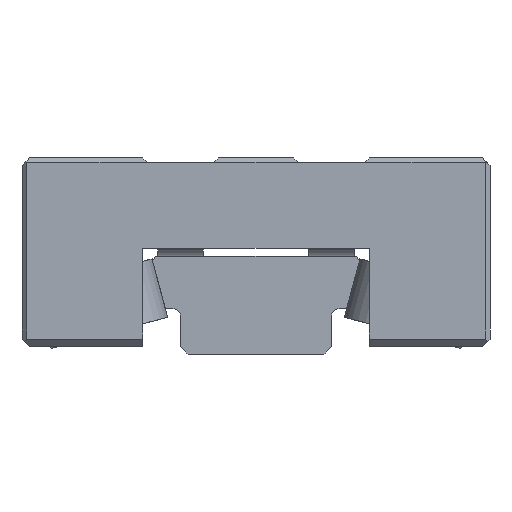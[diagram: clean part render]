
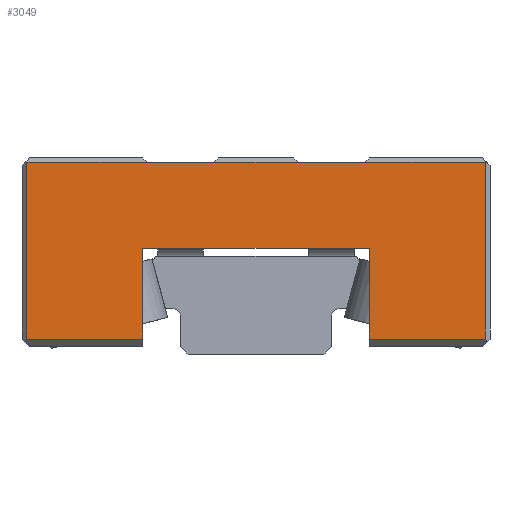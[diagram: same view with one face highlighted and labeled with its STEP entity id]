
A CAD part, left-side view. The second image highlights one B-rep face of the part: STEP entity #3049.
In plain terms, the highlighted planar face has unit normal (-1, 0, 0).
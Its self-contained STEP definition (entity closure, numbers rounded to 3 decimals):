
#2878=CARTESIAN_POINT('',(41.217,-7.5,-5.5));
#2879=VERTEX_POINT('',#2878);
#2886=CARTESIAN_POINT('',(41.217,-7.5,0.5));
#2887=VERTEX_POINT('',#2886);
#2888=CARTESIAN_POINT('',(41.217,-7.5,-5.5));
#2889=DIRECTION('',(0.0,0.0,1.0));
#2890=VECTOR('',#2889,6.);
#2891=LINE('',#2888,#2890);
#2892=EDGE_CURVE('',#2879,#2887,#2891,.T.);
#2943=CARTESIAN_POINT('',(41.217,-15.2,-5.5));
#2944=VERTEX_POINT('',#2943);
#2951=CARTESIAN_POINT('',(41.217,-15.2,-5.5));
#2952=DIRECTION('',(0.0,1.0,0.0));
#2953=VECTOR('',#2952,7.7);
#2954=LINE('',#2951,#2953);
#2955=EDGE_CURVE('',#2944,#2879,#2954,.T.);
#2962=CARTESIAN_POINT('',(41.217,-11.5,6.35));
#2963=DIRECTION('',(1.0,0.0,0.0));
#2964=DIRECTION('',(0.0,0.0,-1.0));
#2965=AXIS2_PLACEMENT_3D('',#2962,#2963,#2964);
#2966=PLANE('',#2965);
#2967=ORIENTED_EDGE('',*,*,#2955,.F.);
#2968=CARTESIAN_POINT('',(41.217,-15.2,6.2));
#2969=VERTEX_POINT('',#2968);
#2970=CARTESIAN_POINT('',(41.217,-15.2,6.2));
#2971=DIRECTION('',(0.0,0.0,-1.0));
#2972=VECTOR('',#2971,11.7);
#2973=LINE('',#2970,#2972);
#2974=EDGE_CURVE('',#2969,#2944,#2973,.T.);
#2975=ORIENTED_EDGE('',*,*,#2974,.F.);
#2976=CARTESIAN_POINT('',(41.217,-7.2,6.2));
#2977=VERTEX_POINT('',#2976);
#2978=CARTESIAN_POINT('',(41.217,-7.2,6.2));
#2979=DIRECTION('',(0.0,-1.0,0.0));
#2980=VECTOR('',#2979,8.);
#2981=LINE('',#2978,#2980);
#2982=EDGE_CURVE('',#2977,#2969,#2981,.T.);
#2983=ORIENTED_EDGE('',*,*,#2982,.F.);
#2984=CARTESIAN_POINT('',(41.217,-2.8,6.2));
#2985=VERTEX_POINT('',#2984);
#2986=CARTESIAN_POINT('',(41.217,-2.8,6.2));
#2987=DIRECTION('',(0.0,-1.0,0.0));
#2988=VECTOR('',#2987,4.4);
#2989=LINE('',#2986,#2988);
#2990=EDGE_CURVE('',#2985,#2977,#2989,.T.);
#2991=ORIENTED_EDGE('',*,*,#2990,.F.);
#2992=CARTESIAN_POINT('',(41.217,2.8,6.2));
#2993=VERTEX_POINT('',#2992);
#2994=CARTESIAN_POINT('',(41.217,2.8,6.2));
#2995=DIRECTION('',(0.0,-1.0,0.0));
#2996=VECTOR('',#2995,5.6);
#2997=LINE('',#2994,#2996);
#2998=EDGE_CURVE('',#2993,#2985,#2997,.T.);
#2999=ORIENTED_EDGE('',*,*,#2998,.F.);
#3000=CARTESIAN_POINT('',(41.217,7.2,6.2));
#3001=VERTEX_POINT('',#3000);
#3002=CARTESIAN_POINT('',(41.217,7.2,6.2));
#3003=DIRECTION('',(0.0,-1.0,0.0));
#3004=VECTOR('',#3003,4.4);
#3005=LINE('',#3002,#3004);
#3006=EDGE_CURVE('',#3001,#2993,#3005,.T.);
#3007=ORIENTED_EDGE('',*,*,#3006,.F.);
#3008=CARTESIAN_POINT('',(41.217,15.2,6.2));
#3009=VERTEX_POINT('',#3008);
#3010=CARTESIAN_POINT('',(41.217,15.2,6.2));
#3011=DIRECTION('',(0.0,-1.0,0.0));
#3012=VECTOR('',#3011,8.0);
#3013=LINE('',#3010,#3012);
#3014=EDGE_CURVE('',#3009,#3001,#3013,.T.);
#3015=ORIENTED_EDGE('',*,*,#3014,.F.);
#3016=CARTESIAN_POINT('',(41.217,15.2,-5.5));
#3017=VERTEX_POINT('',#3016);
#3018=CARTESIAN_POINT('',(41.217,15.2,-5.5));
#3019=DIRECTION('',(0.0,0.0,1.0));
#3020=VECTOR('',#3019,11.7);
#3021=LINE('',#3018,#3020);
#3022=EDGE_CURVE('',#3017,#3009,#3021,.T.);
#3023=ORIENTED_EDGE('',*,*,#3022,.F.);
#3024=CARTESIAN_POINT('',(41.217,7.5,-5.5));
#3025=VERTEX_POINT('',#3024);
#3026=CARTESIAN_POINT('',(41.217,7.5,-5.5));
#3027=DIRECTION('',(0.0,1.0,0.0));
#3028=VECTOR('',#3027,7.7);
#3029=LINE('',#3026,#3028);
#3030=EDGE_CURVE('',#3025,#3017,#3029,.T.);
#3031=ORIENTED_EDGE('',*,*,#3030,.F.);
#3032=CARTESIAN_POINT('',(41.217,7.5,0.5));
#3033=VERTEX_POINT('',#3032);
#3034=CARTESIAN_POINT('',(41.217,7.5,0.5));
#3035=DIRECTION('',(0.0,0.0,-1.0));
#3036=VECTOR('',#3035,6.);
#3037=LINE('',#3034,#3036);
#3038=EDGE_CURVE('',#3033,#3025,#3037,.T.);
#3039=ORIENTED_EDGE('',*,*,#3038,.F.);
#3040=CARTESIAN_POINT('',(41.217,-7.5,0.5));
#3041=DIRECTION('',(0.0,1.0,0.0));
#3042=VECTOR('',#3041,15.0);
#3043=LINE('',#3040,#3042);
#3044=EDGE_CURVE('',#2887,#3033,#3043,.T.);
#3045=ORIENTED_EDGE('',*,*,#3044,.F.);
#3046=ORIENTED_EDGE('',*,*,#2892,.F.);
#3047=EDGE_LOOP('',(#2967,#2975,#2983,#2991,#2999,#3007,#3015,#3023,#3031,#3039,#3045,#3046));
#3048=FACE_OUTER_BOUND('',#3047,.T.);
#3049=ADVANCED_FACE('',(#3048),#2966,.F.);
